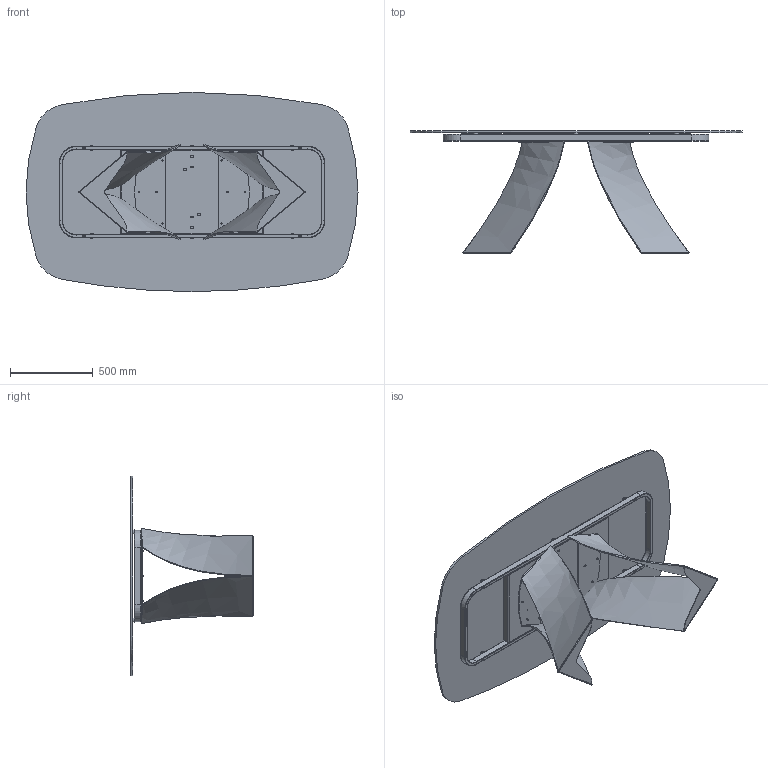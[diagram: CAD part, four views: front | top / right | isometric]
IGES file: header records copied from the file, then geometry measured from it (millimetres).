
Start section: SolidWorks IGES file using analytic representation for surfaces
Global section: file name: Y:\eforma\TECNICO\SOLIDWORKS\E-FORMA\1-TAVOLI\TWIST\02 parts\TW41G.IGS; native system: SolidWorks 2022; preprocessor: SolidWorks 2022; author: eforma.tech; date: 240807.143739; units: millimetre
Bounding box: 2000 x 737.37 x 1200 mm (x, y, z)
Volume: 36427828.9 mm3; surface area: 8814523.4 mm2
Topology: 56 solids, 56 shells, 1109 faces, 2585 edges, 1576 vertices
Faces by surface type: revolution 619, plane 424, bspline 66
